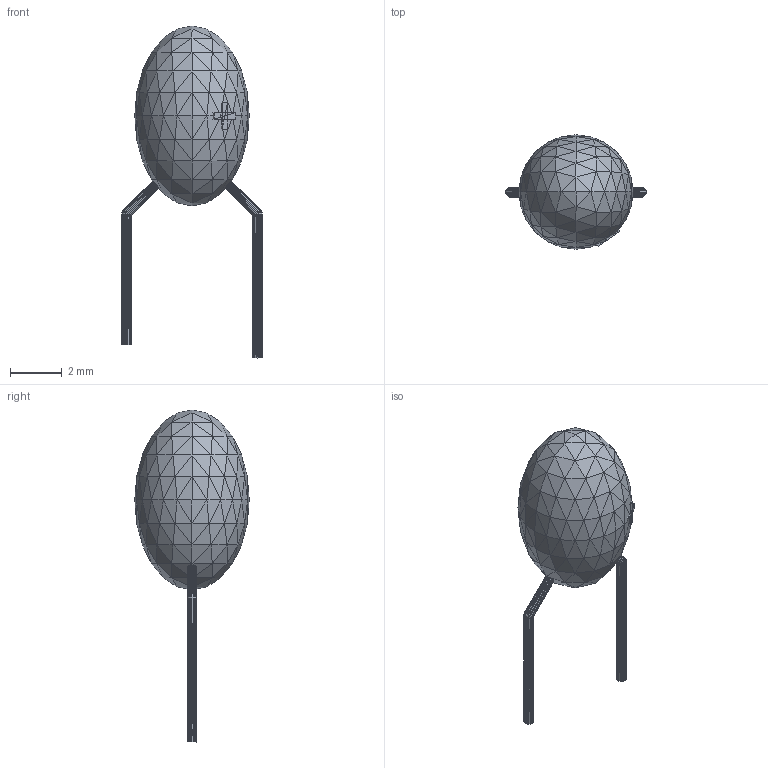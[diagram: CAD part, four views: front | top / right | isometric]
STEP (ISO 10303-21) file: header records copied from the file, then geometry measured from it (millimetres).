
FILE_DESCRIPTION(('HOOPS Exchange Step'),'2;1');
FILE_NAME('***.stp');
FILE_SCHEMA( ('AP242_MANAGED_MODEL_BASED_3D_ENGINEERING_MIM_LF {1 0 10303 442 1 1 4 }') );
Length unit declared in the file: inch
Products named in the file (10): CAPTANTSM_2; CAPTANTSM_3; CAPTANTSM_4; CAPTANTSM_5; CAPTANTSM_6; CAPTANTSM_7; CAPTANTSM_8; CAPTANTSM_9; CAPTANTSM_10; CAPTANTSM
Assembly tree (9 placements, depth 2):
  CAPTANTSM
    CAPTANTSM_2
    CAPTANTSM_3
    CAPTANTSM_4
    CAPTANTSM_5
    CAPTANTSM_6
    CAPTANTSM_7
    CAPTANTSM_8
    CAPTANTSM_9
    CAPTANTSM_10
Bounding box: 5.46 x 4.45 x 12.89 mm (x, y, z)
Volume: 71.3 mm3; surface area: 107.7 mm2
Topology: 9 solids, 9 shells, 1272 faces, 1908 edges, 654 vertices
Faces by surface type: plane 1272
Entity records: 25267 total; most frequent: DIRECTION 4492, CARTESIAN_POINT 3854, ORIENTED_EDGE 3816, VECTOR 1908, LINE 1908, EDGE_CURVE 1908, AXIS2_PLACEMENT_3D 1292, PLANE 1272
